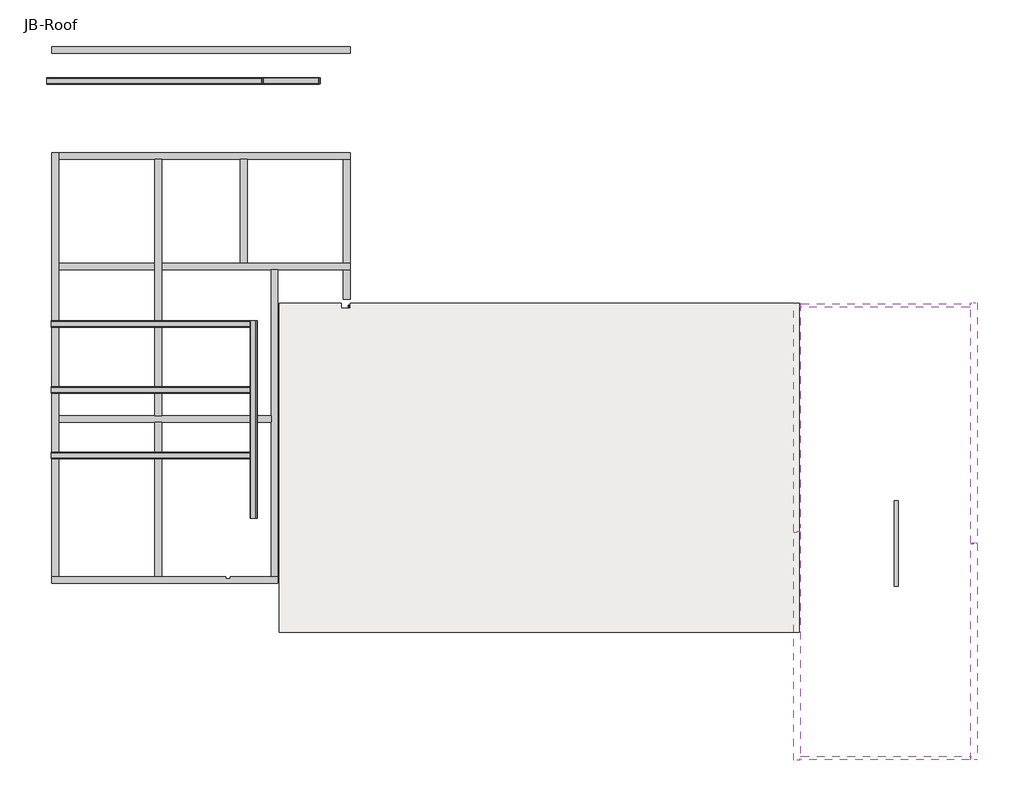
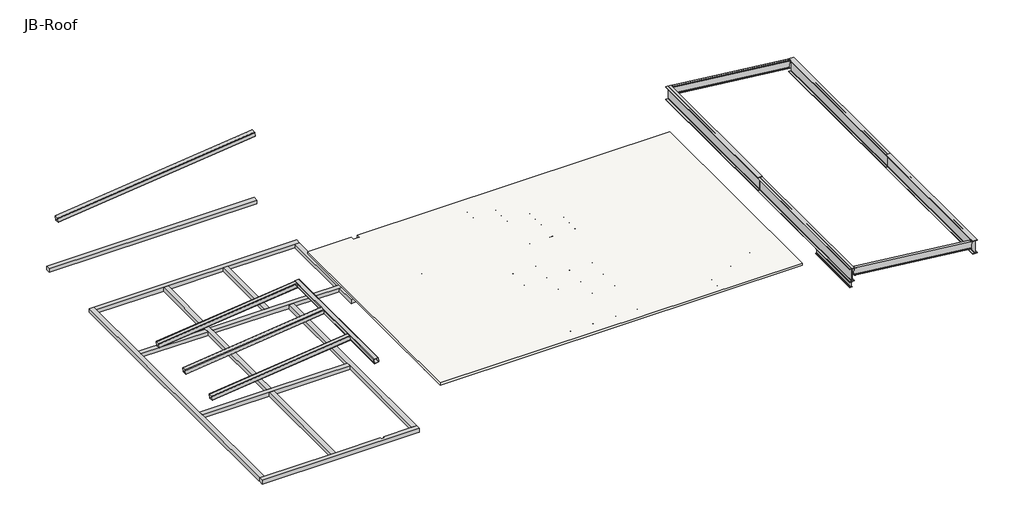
# One storey: 46 beams, 1 slab.
"""IFC4 building model written with IfcOpenShell, lengths in millimetres."""

from ifc_helpers import new_model, si_unit, frame, origin, place, context, project, spatial, polyline, outline, extrude, faceted_brep, transform, mapped, element, save
from components import hss_hollow_structural_section_hss12x12x1_2_c205e00b, hss_hollow_structural_section_hss12x12x1_2_65790d26, hss_hollow_structural_section_hss12x12x1_2_75c03b45, hss_hollow_structural_section_hss12x12x1_2_15489e63, hss_hollow_structural_section_hss12x12x1_2_070f9e11, k_series_bar_joist_rod_web_12k1_a6bee375, k_series_bar_joist_rod_web_12k1_562b93e1, k_series_bar_joist_rod_web_12k1_8968bb53, k_series_bar_joist_rod_web_22k4_82dcadde, k_series_bar_joist_rod_web_24k4_98bbd377, k_series_bar_joist_rod_web_24k4_0bbdf4ea, round_bar_rb1_903308a8, w_wide_flange_w14x30_17857959, w_wide_flange_w21x44_6d4e9764, w_wide_flange_w21x44_a0252540, w_wide_flange_w36x135_5b543eee, w_wide_flange_w36x135_edb61ff3, w_wide_flange_w36x135_1d218eeb, w_wide_flange_w36x135_915bd06f

model = new_model("IFC4")

# Units and contexts
model_context = context("Model", 3, world=origin())
ifc_project = project(units=[si_unit("LENGTHUNIT", "METRE", prefix="MILLI")], contexts=[model_context])

# Site, building, storey
site = spatial("IfcSite", under=ifc_project)
building = spatial("IfcBuilding", under=site)
storey = spatial("IfcBuildingStorey", under=building, Name="JB-Roof", Elevation=38468.3)

# Beams
placement = place(None, origin())
element("IfcBeam", 1, ObjectType="Concrete-Rectangular Beam : 12 x 18", at=placement, inside=storey, context=model_context, shape_type="Brep", body=[
    faceted_brep([(-20966.7454607, -5025.0304995, 33782.0), (-20560.3454607, -5025.0304995, 33782.0), (-16242.3454607, -5025.0304995, 33782.0), (-15835.9454607, -5025.0304995, 33782.0), (-10936.1763201, -5025.0304995, 33782.0), (-10529.7763201, -5025.0304995, 33782.0), (-10507.5513201, -5025.0304995, 33782.0), (-10507.5513201, -5025.0304995, 34036.0), (-20966.7454607, -5025.0304995, 34036.0), (-20966.7454607, -4720.2304995, 33782.0), (-20661.9454607, -4720.2304995, 33782.0), (-16191.5454607, -4720.2304995, 33782.0), (-15886.7454607, -4720.2304995, 33782.0), (-12913.3579607, -4720.2304995, 33782.0), (-12913.3579607, -4821.8304995, 33782.0), (-12710.1579607, -4821.8304995, 33782.0), (-12710.1579607, -4720.2304995, 33782.0), (-10812.3513201, -4720.2304995, 33782.0), (-10507.5513201, -4720.2304995, 33782.0), (-20966.7454607, -4720.2304995, 34036.0), (-20661.9454607, -4720.2304995, 34036.0), (-16191.5454607, -4720.2304995, 34036.0), (-15886.7454607, -4720.2304995, 34036.0), (-12913.3579607, -4720.2304995, 34036.0), (-10507.5513201, -4720.2304995, 34036.0), (-10812.3513201, -4720.2304995, 34036.0), (-12710.1579607, -4720.2304995, 34036.0), (-12710.1579607, -4821.8304995, 34036.0), (-12913.3579607, -4821.8304995, 34036.0)], [[[0, 1, 2, 3, 4, 5, 6, 7, 8]], [[0, 9, 10, 11, 12, 13, 14, 15, 16, 17, 18, 6, 5, 4, 3, 2, 1]], [[9, 19, 20, 21, 22, 23, 13, 12, 11, 10]], [[9, 0, 8, 19]], [[6, 18, 24, 7]], [[8, 7, 24, 25, 26, 27, 28, 23, 22, 21, 20, 19]], [[28, 14, 13, 23]], [[15, 27, 26, 16]], [[14, 28, 27, 15]], [[24, 18, 17, 16, 26, 25]]]),
])
element("IfcBeam", 2, ObjectType="Concrete-Rectangular Beam : 12 x 18", at=placement, inside=storey, context=model_context, shape_type="Brep", body=[
    faceted_brep([(-20661.9454607, 2429.8695005, 34036.0), (-20661.9454607, 2429.8695005, 33782.0), (-16191.5454607, 2429.8695005, 33782.0), (-15886.7454607, 2429.8695005, 33782.0), (-10812.3513201, 2429.8695005, 33782.0), (-10812.3513201, 2429.8695005, 34036.0), (-15886.7454607, 2429.8695005, 34036.0), (-16191.5454607, 2429.8695005, 34036.0), (-20661.9454607, 2734.6695005, 33782.0), (-16191.5454607, 2734.6695005, 33782.0), (-15886.7454607, 2734.6695005, 33782.0), (-10812.3513201, 2734.6695005, 33782.0), (-20661.9454607, 2734.6695005, 34036.0), (-16191.5454607, 2734.6695005, 34036.0), (-15886.7454607, 2734.6695005, 34036.0), (-10812.3513201, 2734.6695005, 34036.0)], [[[0, 1, 2, 3, 4, 5, 6, 7]], [[1, 8, 9, 10, 11, 4, 3, 2]], [[8, 12, 13, 14, 15, 11, 10, 9]], [[12, 0, 7, 6, 5, 15, 14, 13]], [[1, 0, 12, 8]], [[5, 4, 11, 15]]]),
])
element("IfcBeam", 3, ObjectType="Concrete-Rectangular Beam : 12 x 18", at=placement, inside=storey, context=model_context, shape_type="Brep", body=[
    faceted_brep([(-20661.9454607, -4720.2304995, 33782.0), (-20661.9454607, 2429.8695005, 33782.0), (-20661.9454607, 2734.6695005, 33782.0), (-20661.9454607, 9491.0695005, 33782.0), (-20661.9454607, 9795.8695005, 33782.0), (-20661.9454607, 14621.8695005, 33782.0), (-20661.9454607, 14926.6695005, 33782.0), (-20661.9454607, 14926.6695005, 34036.0), (-20661.9454607, 14621.8695005, 34036.0), (-20661.9454607, 9795.8695005, 34036.0), (-20661.9454607, 9491.0695005, 34036.0), (-20661.9454607, 2734.6695005, 34036.0), (-20661.9454607, 2429.8695005, 34036.0), (-20661.9454607, -4720.2304995, 34036.0), (-20966.7454607, -4720.2304995, 33782.0), (-20966.7454607, -4618.6304995, 33782.0), (-20966.7454607, 2379.0695005, 33782.0), (-20966.7454607, 2785.4695005, 33782.0), (-20966.7454607, 9491.0695005, 33782.0), (-20966.7454607, 9897.4695005, 33782.0), (-20966.7454607, 14520.2695005, 33782.0), (-20966.7454607, 14926.6695005, 33782.0), (-20966.7454607, -4720.2304995, 34036.0), (-20966.7454607, 14926.6695005, 34036.0)], [[[0, 1, 2, 3, 4, 5, 6, 7, 8, 9, 10, 11, 12, 13]], [[0, 14, 15, 16, 17, 18, 19, 20, 21, 6, 5, 4, 3, 2, 1]], [[21, 20, 19, 18, 17, 16, 15, 14, 22, 23]], [[14, 0, 13, 22]], [[13, 12, 11, 10, 9, 8, 7, 23, 22]], [[6, 21, 23, 7]]]),
])
element("IfcBeam", 4, ObjectType="Concrete-Rectangular Beam : 12 x 18", at=placement, inside=storey, context=model_context, shape_type="Brep", body=[
    faceted_brep([(-15886.7454607, 2734.6695005, 34036.0), (-15886.7454607, 2734.6695005, 33782.0), (-15886.7454607, 9491.0695005, 33782.0), (-15886.7454607, 9795.8695005, 33782.0), (-15886.7454607, 14621.8695005, 33782.0), (-15886.7454607, 14621.8695005, 34036.0), (-15886.7454607, 9795.8695005, 34036.0), (-15886.7454607, 9491.0695005, 34036.0), (-15886.7454607, 4866.6820005, 34036.0), (-15886.7454607, 4157.0695006, 34036.0), (-16191.5454607, 2734.6695005, 34036.0), (-16191.5454607, 2734.6695005, 33782.0), (-16191.5454607, 9491.0695005, 34036.0), (-16191.5454607, 9795.8695005, 34036.0), (-16191.5454607, 14621.8695005, 34036.0), (-16191.5454607, 14621.8695005, 33782.0), (-16191.5454607, 9795.8695005, 33782.0), (-16191.5454607, 9491.0695005, 33782.0)], [[[0, 1, 2, 3, 4, 5, 6, 7, 8, 9]], [[1, 0, 10, 11]], [[11, 10, 12, 13, 14, 15, 16, 17]], [[5, 4, 15, 14]], [[1, 11, 17, 16, 15, 4, 3, 2]], [[0, 9, 8, 7, 6, 5, 14, 13, 12, 10]]]),
    faceted_brep([(-15886.7454607, -4720.2304995, 33782.0), (-16191.5454607, -4720.2304995, 33782.0), (-16191.5454607, 2429.8695005, 33782.0), (-15886.7454607, 2429.8695005, 33782.0), (-16191.5454607, 2429.8695005, 34036.0), (-16191.5454607, -4720.2304995, 34036.0), (-15886.7454607, -4720.2304995, 34036.0), (-15886.7454607, 2429.8695005, 34036.0)], [[[0, 1, 2, 3]], [[4, 2, 1, 5]], [[1, 0, 6, 5]], [[6, 7, 4, 5]], [[7, 3, 2, 4]], [[3, 7, 6, 0]]]),
])
element("IfcBeam", 5, ObjectType="Concrete-Rectangular Beam : 12 x 18", at=placement, inside=storey, context=model_context, shape_type="Brep", body=[
    faceted_brep([(-10507.5513201, 8132.1695005, 34036.0), (-10507.5513201, -4720.2304995, 34036.0), (-10507.5513201, -4720.2304995, 33782.0), (-10507.5513201, 9491.0695005, 33782.0), (-10507.5513201, 9491.0695005, 34036.0), (-10812.3513201, -4720.2304995, 33782.0), (-10812.3513201, 2429.8695005, 33782.0), (-10812.3513201, 2734.6695005, 33782.0), (-10812.3513201, 9491.0695005, 33782.0), (-10812.3513201, -4720.2304995, 34036.0), (-10812.3513201, 2429.8695005, 34036.0), (-10812.3513201, 2734.6695005, 34036.0), (-10812.3513201, 9491.0695005, 34036.0)], [[[0, 1, 2, 3, 4]], [[2, 5, 6, 7, 8, 3]], [[5, 9, 10, 11, 12, 8, 7, 6]], [[5, 2, 1, 9]], [[1, 0, 4, 12, 11, 10, 9]], [[4, 3, 8, 12]]]),
])
element("IfcBeam", 6, ObjectType="Concrete-Rectangular Beam : 12 x 18", at=placement, inside=storey, context=model_context, shape_type="Brep", body=[
    faceted_brep([(-20661.9454607, 9491.0695005, 34036.0), (-20661.9454607, 9491.0695005, 33782.0), (-20560.3454607, 9491.0695005, 33782.0), (-16242.3454607, 9491.0695005, 33782.0), (-16191.5454607, 9491.0695005, 33782.0), (-16191.5454607, 9491.0695005, 34036.0), (-20661.9454607, 9795.8695005, 33782.0), (-16191.5454607, 9795.8695005, 33782.0), (-20661.9454607, 9795.8695005, 34036.0), (-16191.5454607, 9795.8695005, 34036.0)], [[[0, 1, 2, 3, 4, 5]], [[1, 6, 7, 4, 3, 2]], [[6, 8, 9, 7]], [[6, 1, 0, 8]], [[5, 4, 7, 9]], [[8, 0, 5, 9]]]),
    faceted_brep([(-7149.1454607, 9491.0695005, 33782.0), (-7149.1454607, 9491.0695005, 34036.0), (-7453.9454607, 9491.0695005, 34036.0), (-10507.5513201, 9491.0695005, 34036.0), (-10812.3513201, 9491.0695005, 34036.0), (-15886.7454607, 9491.0695005, 34036.0), (-15886.7454607, 9491.0695005, 33782.0), (-15835.9454607, 9491.0695005, 33782.0), (-12279.9454607, 9491.0695005, 33782.0), (-11873.5454607, 9491.0695005, 33782.0), (-10812.3513201, 9491.0695005, 33782.0), (-10507.5513201, 9491.0695005, 33782.0), (-7555.5454607, 9491.0695005, 33782.0), (-7453.9454607, 9491.0695005, 33782.0), (-7149.1454607, 9795.8695005, 34036.0), (-7149.1454607, 9795.8695005, 33782.0), (-7453.9454607, 9795.8695005, 33782.0), (-11924.3454607, 9795.8695005, 33782.0), (-12229.1454607, 9795.8695005, 33782.0), (-15886.7454607, 9795.8695005, 33782.0), (-15886.7454607, 9795.8695005, 34036.0), (-12229.1454607, 9795.8695005, 34036.0), (-11924.3454607, 9795.8695005, 34036.0), (-7453.9454607, 9795.8695005, 34036.0)], [[[0, 1, 2, 3, 4, 5, 6, 7, 8, 9, 10, 11, 12, 13]], [[14, 15, 16, 17, 18, 19, 20, 21, 22, 23]], [[15, 0, 13, 12, 11, 10, 9, 8, 7, 6, 19, 18, 17, 16]], [[0, 15, 14, 1]], [[1, 14, 23, 22, 21, 20, 5, 4, 3, 2]], [[6, 5, 20, 19]]]),
])
element("IfcBeam", 7, ObjectType="Concrete-Rectangular Beam : 12 x 18", at=placement, inside=storey, context=model_context, shape_type="Brep", body=[
    faceted_brep([(-20661.9454607, 14621.8695005, 33782.0), (-16191.5454607, 14621.8695005, 33782.0), (-15886.7454607, 14621.8695005, 33782.0), (-12229.1454607, 14621.8695005, 33782.0), (-11924.3454607, 14621.8695005, 33782.0), (-7453.9454607, 14621.8695005, 33782.0), (-7149.1454607, 14621.8695005, 33782.0), (-7149.1454607, 14621.8695005, 34036.0), (-7453.9454607, 14621.8695005, 34036.0), (-11924.3454607, 14621.8695005, 34036.0), (-12229.1454607, 14621.8695005, 34036.0), (-15886.7454607, 14621.8695005, 34036.0), (-16191.5454607, 14621.8695005, 34036.0), (-20661.9454607, 14621.8695005, 34036.0), (-20661.9454607, 14926.6695005, 33782.0), (-20560.3454607, 14926.6695005, 33782.0), (-16242.3454607, 14926.6695005, 33782.0), (-15835.9454607, 14926.6695005, 33782.0), (-12279.9454607, 14926.6695005, 33782.0), (-11873.5454607, 14926.6695005, 33782.0), (-7555.5454607, 14926.6695005, 33782.0), (-7149.1454607, 14926.6695005, 33782.0), (-20661.9454607, 14926.6695005, 34036.0), (-7149.1454607, 14926.6695005, 34036.0)], [[[0, 1, 2, 3, 4, 5, 6, 7, 8, 9, 10, 11, 12, 13]], [[0, 14, 15, 16, 17, 18, 19, 20, 21, 6, 5, 4, 3, 2, 1]], [[21, 20, 19, 18, 17, 16, 15, 14, 22, 23]], [[14, 0, 13, 22]], [[13, 12, 11, 10, 9, 8, 7, 23, 22]], [[6, 21, 23, 7]]]),
])
element("IfcBeam", 8, ObjectType="Concrete-Rectangular Beam : 12 x 18", at=placement, inside=storey, context=model_context, shape_type="SweptSolid", body=[
    extrude(outline(polyline([(-11924.3454607, 9795.8695005), (-12229.1454607, 9795.8695005), (-12229.1454607, 14621.8695005), (-11924.3454607, 14621.8695005), (-11924.3454607, 9795.8695005)])), frame((0.0, 0.0, 33782.0), z_axis=(0.0, 0.0, 1.0), x_axis=(1.0, 0.0, 0.0)), (0.0, 0.0, 1.0), 254.0),
])
element("IfcBeam", 9, ObjectType="Concrete-Rectangular Beam : 12 x 18", at=placement, inside=storey, context=model_context, shape_type="Brep", body=[
    faceted_brep([(-7453.9454607, 14621.8695005, 33782.0), (-7453.9454607, 9795.8695005, 33782.0), (-7453.9454607, 9795.8695005, 34036.0), (-7453.9454607, 14621.8695005, 34036.0), (-7149.1454607, 9795.8695005, 33782.0), (-7149.1454607, 14621.8695005, 33782.0), (-7149.1454607, 14520.2695005, 33782.0), (-7149.1454607, 9897.4695005, 33782.0), (-7149.1454607, 14621.8695005, 34036.0), (-7149.1454607, 9795.8695005, 34036.0)], [[[0, 1, 2, 3]], [[4, 1, 0, 5, 6, 7]], [[4, 7, 6, 5, 8, 9]], [[1, 4, 9, 2]], [[5, 0, 3, 8]], [[3, 2, 9, 8]]]),
])
element("IfcBeam", 10, ObjectType="Concrete-Rectangular Beam : 12 x 18", at=placement, inside=storey, context=model_context, shape_type="SweptSolid", body=[
    extrude(outline(polyline([(-7149.1454607, 19847.9195005), (-7149.1454607, 19543.1195005), (-20966.7454607, 19543.1195005), (-20966.7454607, 19847.9195005), (-7149.1454607, 19847.9195005)])), frame((0.0, 0.0, 33782.0), z_axis=(0.0, 0.0, 1.0), x_axis=(1.0, 0.0, 0.0)), (0.0, 0.0, 1.0), 254.0),
])
element("IfcBeam", 11, ObjectType="Concrete-Rectangular Beam : 12 x 18", at=placement, inside=storey, context=model_context, shape_type="SweptSolid", body=[
    extrude(outline(polyline([(-7453.9454607, 8132.1695005), (-7453.9454607, 9491.0695005), (-7149.1454607, 9491.0695005), (-7149.1454607, 8132.1695005), (-7453.9454607, 8132.1695005)])), frame((0.0, 0.0, 33782.0), z_axis=(0.0, 0.0, 1.0), x_axis=(1.0, 0.0, 0.0)), (0.0, 0.0, 1.0), 254.0),
])
hss_hollow_structural_section_hss12x12x1_2_shape = hss_hollow_structural_section_hss12x12x1_2_c205e00b(model_context)
element("IfcBeam", 12, ObjectType="HSS-Hollow Structural Section : HSS12X12X1/2", at=placement, inside=storey, context=model_context, shape_type="MappedRepresentation", body=[
    mapped(hss_hollow_structural_section_hss12x12x1_2_shape, transform((-11619.5622499, 2480.6695005, 37366.8520628), x_axis=(0.0, -1.0, 0.0), y_axis=(0.9938030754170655, 0.0, 0.11115505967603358), z_axis=(-0.11115505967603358, 0.0, 0.9938030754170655))),
])
hss_hollow_structural_section_hss12x12x1_2_2_shape = hss_hollow_structural_section_hss12x12x1_2_65790d26(model_context)
element("IfcBeam", 13, ObjectType="HSS-Hollow Structural Section : HSS12X12X1/2", at=placement, inside=storey, context=model_context, shape_type="MappedRepresentation", body=[
    mapped(hss_hollow_structural_section_hss12x12x1_2_2_shape, transform((-14730.32539, 18252.7995005, 39127.1188846), x_axis=(-0.9938030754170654, 0.0, -0.11115505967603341), y_axis=(0.0, -1.0, 0.0), z_axis=(-0.11115505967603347, 0.0, 0.9938030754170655))),
])
hss_hollow_structural_section_hss12x12x1_2_3_shape = hss_hollow_structural_section_hss12x12x1_2_75c03b45(model_context)
element("IfcBeam", 14, ObjectType="HSS-Hollow Structural Section : HSS12X12X1/2", at=placement, inside=storey, context=model_context, shape_type="MappedRepresentation", body=[
    mapped(hss_hollow_structural_section_hss12x12x1_2_3_shape, transform((-16306.6763225, 880.4695005, 36842.6069107), x_axis=(0.9938030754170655, 0.0, 0.11115505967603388), y_axis=(0.0, 1.0000000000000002, 0.0), z_axis=(-0.11115505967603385, 0.0, 0.9938030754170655))),
])
hss_hollow_structural_section_hss12x12x1_2_4_shape = hss_hollow_structural_section_hss12x12x1_2_15489e63(model_context)
element("IfcBeam", 15, ObjectType="HSS-Hollow Structural Section : HSS12X12X1/2", at=placement, inside=storey, context=model_context, shape_type="MappedRepresentation", body=[
    mapped(hss_hollow_structural_section_hss12x12x1_2_4_shape, transform((-16306.9056735, 6976.4695005, 36842.5812582), x_axis=(0.9938030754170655, 0.0, 0.1111550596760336), y_axis=(0.0, 1.0000000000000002, 0.0), z_axis=(-0.1111550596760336, 0.0, 0.9938030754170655))),
])
hss_hollow_structural_section_hss12x12x1_2_5_shape = hss_hollow_structural_section_hss12x12x1_2_070f9e11(model_context)
element("IfcBeam", 16, ObjectType="HSS-Hollow Structural Section : HSS12X12X1/2", at=placement, inside=storey, context=model_context, shape_type="MappedRepresentation", body=[
    mapped(hss_hollow_structural_section_hss12x12x1_2_5_shape, transform((-16306.6771812, 3928.4695005, 36842.6068146), x_axis=(0.9938030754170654, 0.0, 0.11115505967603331), y_axis=(0.0, 1.0, 0.0), z_axis=(-0.11115505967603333, 0.0, 0.9938030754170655))),
])
k_series_bar_joist_rod_web_12k1_shape = k_series_bar_joist_rod_web_12k1_a6bee375(model_context)
element("IfcBeam", 17, ObjectType="K-Series Bar Joist-Rod Web : 12K1", at=placement, inside=storey, context=model_context, shape_type="MappedRepresentation", body=[
    mapped(k_series_bar_joist_rod_web_12k1_shape, transform((4185.6045393, 4984.1570005, 38315.9), x_axis=(0.0, -1.0, 0.0), y_axis=(1.0, 0.0, 0.0), z_axis=(0.0, 0.0, 1.0))),
])
element("IfcBeam", 18, ObjectType="K-Series Bar Joist-Rod Web : 12K1", at=placement, inside=storey, context=model_context, shape_type="MappedRepresentation", body=[
    mapped(k_series_bar_joist_rod_web_12k1_shape, transform((2661.6045393, 4984.1570005, 38315.9), x_axis=(0.0, -1.0, 0.0), y_axis=(1.0, 0.0, 0.0), z_axis=(0.0, 0.0, 1.0))),
])
element("IfcBeam", 19, ObjectType="K-Series Bar Joist-Rod Web : 12K1", at=placement, inside=storey, context=model_context, shape_type="MappedRepresentation", body=[
    mapped(k_series_bar_joist_rod_web_12k1_shape, transform((1137.6045393, 4984.1570005, 38315.9), x_axis=(0.0, -1.0, 0.0), y_axis=(1.0, 0.0, 0.0), z_axis=(0.0, 0.0, 1.0))),
])
element("IfcBeam", 20, ObjectType="K-Series Bar Joist-Rod Web : 12K1", at=placement, inside=storey, context=model_context, shape_type="MappedRepresentation", body=[
    mapped(k_series_bar_joist_rod_web_12k1_shape, transform((-386.3954607, 4984.1570005, 38315.9), x_axis=(0.0, -1.0, 0.0), y_axis=(1.0, 0.0, 0.0), z_axis=(0.0, 0.0, 1.0))),
])
k_series_bar_joist_rod_web_12k1_2_shape = k_series_bar_joist_rod_web_12k1_562b93e1(model_context)
element("IfcBeam", 21, ObjectType="K-Series Bar Joist-Rod Web : 12K1", at=placement, inside=storey, context=model_context, shape_type="MappedRepresentation", body=[
    mapped(k_series_bar_joist_rod_web_12k1_2_shape, transform((11679.7951643, -4439.2429995, 38315.9), x_axis=(0.0, -1.0, 0.0), y_axis=(1.0, 0.0, 0.0), z_axis=(0.0, 0.0, 1.0))),
])
element("IfcBeam", 22, ObjectType="K-Series Bar Joist-Rod Web : 12K1", at=placement, inside=storey, context=model_context, shape_type="MappedRepresentation", body=[
    mapped(k_series_bar_joist_rod_web_12k1_2_shape, transform((10061.7357893, -4439.2429995, 38315.9), x_axis=(0.0, -1.0, 0.0), y_axis=(1.0, 0.0, 0.0), z_axis=(0.0, 0.0, 1.0))),
])
element("IfcBeam", 23, ObjectType="K-Series Bar Joist-Rod Web : 12K1", at=placement, inside=storey, context=model_context, shape_type="MappedRepresentation", body=[
    mapped(k_series_bar_joist_rod_web_12k1_2_shape, transform((8443.6764143, -4439.2429995, 38315.9), x_axis=(0.0, -1.0, 0.0), y_axis=(1.0, 0.0, 0.0), z_axis=(0.0, 0.0, 1.0))),
])
k_series_bar_joist_rod_web_12k1_3_shape = k_series_bar_joist_rod_web_12k1_8968bb53(model_context)
element("IfcBeam", 24, ObjectType="K-Series Bar Joist-Rod Web : 12K1", at=placement, inside=storey, context=model_context, shape_type="MappedRepresentation", body=[
    mapped(k_series_bar_joist_rod_web_12k1_3_shape, transform((-8753.9884159, 5212.7570005, 38315.9), x_axis=(0.010666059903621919, 0.9999431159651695, 0.0), y_axis=(-0.9999431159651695, 0.010666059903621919, 0.0), z_axis=(0.0, 0.0, 1.0))),
])
element("IfcBeam", 25, ObjectType="K-Series Bar Joist-Rod Web : 12K1", at=placement, inside=storey, context=model_context, shape_type="MappedRepresentation", body=[
    mapped(k_series_bar_joist_rod_web_12k1_3_shape, transform((-5707.8939216, 5212.7570005, 38315.9), x_axis=(0.010666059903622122, 0.9999431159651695, 0.0), y_axis=(-0.9999431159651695, 0.010666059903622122, 0.0), z_axis=(0.0, 0.0, 1.0))),
])
element("IfcBeam", 26, ObjectType="K-Series Bar Joist-Rod Web : 12K1", at=placement, inside=storey, context=model_context, shape_type="MappedRepresentation", body=[
    mapped(k_series_bar_joist_rod_web_12k1_3_shape, transform((-4184.8466745, 5212.7570005, 38315.9), x_axis=(0.010666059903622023, 0.9999431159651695, 0.0), y_axis=(-0.9999431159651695, 0.010666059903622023, 0.0), z_axis=(0.0, 0.0, 1.0))),
])
element("IfcBeam", 27, ObjectType="K-Series Bar Joist-Rod Web : 12K1", at=placement, inside=storey, context=model_context, shape_type="MappedRepresentation", body=[
    mapped(k_series_bar_joist_rod_web_12k1_3_shape, transform((-7230.9411688, 5212.7570005, 38315.9), x_axis=(0.010666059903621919, 0.9999431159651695, 0.0), y_axis=(-0.9999431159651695, 0.010666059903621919, 0.0), z_axis=(0.0, 0.0, 1.0))),
])
k_series_bar_joist_rod_web_22k4_shape = k_series_bar_joist_rod_web_22k4_82dcadde(model_context)
element("IfcBeam", 28, ObjectType="K-Series Bar Joist-Rod Web : 22K4", at=placement, inside=storey, context=model_context, shape_type="MappedRepresentation", body=[
    mapped(k_series_bar_joist_rod_web_22k4_shape, transform((-8799.8279607, -2186.2515659, 38188.9), x_axis=(0.0, -1.0, 0.0), y_axis=(1.0, 0.0, 0.0), z_axis=(0.0, 0.0, 1.0))),
])
element("IfcBeam", 29, ObjectType="K-Series Bar Joist-Rod Web : 22K4", at=placement, inside=storey, context=model_context, shape_type="MappedRepresentation", body=[
    mapped(k_series_bar_joist_rod_web_22k4_shape, transform((-7272.3354607, -2187.3664501, 38188.9), x_axis=(0.0, -1.0, 0.0), y_axis=(1.0, 0.0, 0.0), z_axis=(0.0, 0.0, 1.0))),
])
element("IfcBeam", 30, ObjectType="K-Series Bar Joist-Rod Web : 22K4", at=placement, inside=storey, context=model_context, shape_type="MappedRepresentation", body=[
    mapped(k_series_bar_joist_rod_web_22k4_shape, transform((-5744.8429607, -2188.4813342, 38188.9), x_axis=(0.0, -1.0, 0.0), y_axis=(1.0, 0.0, 0.0), z_axis=(0.0, 0.0, 1.0))),
])
element("IfcBeam", 31, ObjectType="K-Series Bar Joist-Rod Web : 22K4", at=placement, inside=storey, context=model_context, shape_type="MappedRepresentation", body=[
    mapped(k_series_bar_joist_rod_web_22k4_shape, transform((-4217.3504607, -2189.5962184, 38188.9), x_axis=(0.0, -1.0, 0.0), y_axis=(1.0, 0.0, 0.0), z_axis=(0.0, 0.0, 1.0))),
])
k_series_bar_joist_rod_web_24k4_shape = k_series_bar_joist_rod_web_24k4_98bbd377(model_context)
element("IfcBeam", 32, ObjectType="K-Series Bar Joist-Rod Web : 24K4", at=placement, inside=storey, context=model_context, shape_type="MappedRepresentation", body=[
    mapped(k_series_bar_joist_rod_web_24k4_shape, transform((-1192.8454607, -2408.8304995, 38163.5), x_axis=(0.0, 1.0, 0.0), y_axis=(-1.0, 0.0, 0.0), z_axis=(0.0, 0.0, 1.0))),
])
element("IfcBeam", 33, ObjectType="K-Series Bar Joist-Rod Web : 24K4", at=placement, inside=storey, context=model_context, shape_type="MappedRepresentation", body=[
    mapped(k_series_bar_joist_rod_web_24k4_shape, transform((304.1670393, -2408.8304995, 38163.5), x_axis=(0.0, 1.0, 0.0), y_axis=(-1.0, 0.0, 0.0), z_axis=(0.0, 0.0, 1.0))),
])
element("IfcBeam", 34, ObjectType="K-Series Bar Joist-Rod Web : 24K4", at=placement, inside=storey, context=model_context, shape_type="MappedRepresentation", body=[
    mapped(k_series_bar_joist_rod_web_24k4_shape, transform((1801.1795393, -2408.8304995, 38163.5), x_axis=(0.0, 1.0, 0.0), y_axis=(-1.0, 0.0, 0.0), z_axis=(0.0, 0.0, 1.0))),
])
element("IfcBeam", 35, ObjectType="K-Series Bar Joist-Rod Web : 24K4", at=placement, inside=storey, context=model_context, shape_type="MappedRepresentation", body=[
    mapped(k_series_bar_joist_rod_web_24k4_shape, transform((3298.1920393, -2408.8304995, 38163.5), x_axis=(0.0, 1.0, 0.0), y_axis=(-1.0, 0.0, 0.0), z_axis=(0.0, 0.0, 1.0))),
])
k_series_bar_joist_rod_web_24k4_2_shape = k_series_bar_joist_rod_web_24k4_0bbdf4ea(model_context)
element("IfcBeam", 36, ObjectType="K-Series Bar Joist-Rod Web : 24K4", at=placement, inside=storey, context=model_context, shape_type="MappedRepresentation", body=[
    mapped(k_series_bar_joist_rod_web_24k4_2_shape, transform((8511.1451643, 2953.7445005, 38163.5), x_axis=(0.0, 1.0, 0.0), y_axis=(-1.0, 0.0, 0.0), z_axis=(0.0, 0.0, 1.0))),
])
element("IfcBeam", 37, ObjectType="K-Series Bar Joist-Rod Web : 24K4", at=placement, inside=storey, context=model_context, shape_type="MappedRepresentation", body=[
    mapped(k_series_bar_joist_rod_web_24k4_2_shape, transform((10196.6732893, 2953.7445005, 38163.5), x_axis=(0.0, 1.0, 0.0), y_axis=(-1.0, 0.0, 0.0), z_axis=(0.0, 0.0, 1.0))),
])
element("IfcBeam", 38, ObjectType="K-Series Bar Joist-Rod Web : 24K4", at=placement, inside=storey, context=model_context, shape_type="MappedRepresentation", body=[
    mapped(k_series_bar_joist_rod_web_24k4_2_shape, transform((11882.2014143, 2953.7445005, 38163.5), x_axis=(0.0, 1.0, 0.0), y_axis=(-1.0, 0.0, 0.0), z_axis=(0.0, 0.0, 1.0))),
])
round_bar_rb1_shape = round_bar_rb1_903308a8(model_context)
element("IfcBeam", 39, ObjectType="Round Bar : RB1", at=placement, inside=storey, context=model_context, shape_type="MappedRepresentation", body=[
    mapped(round_bar_rb1_shape, transform((-2840.9344946, 4361.8564965, 30467.3), x_axis=(1.0, 0.0, 0.0), y_axis=(0.0, 1.0, 0.0), z_axis=(0.0, 0.0, 1.0))),
])
w_wide_flange_w14x30_shape = w_wide_flange_w14x30_17857959(model_context)
element("IfcBeam", 40, ObjectType="W-Wide Flange : W14X30", at=placement, inside=storey, context=model_context, shape_type="MappedRepresentation", body=[
    mapped(w_wide_flange_w14x30_shape, transform((18172.4717268, -3175.5929995, 34203.1339844), x_axis=(0.0, -1.0, 0.0), y_axis=(1.0, 0.0, 0.0), z_axis=(0.0, 0.0, 1.0))),
])
w_wide_flange_w21x44_shape = w_wide_flange_w21x44_6d4e9764(model_context)
element("IfcBeam", 41, ObjectType="W-Wide Flange : W21X44", at=placement, inside=storey, context=model_context, shape_type="MappedRepresentation", body=[
    mapped(w_wide_flange_w21x44_shape, transform((17645.9365475, -13140.3801089, 41130.1521404), x_axis=(0.993803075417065, 0.0, -0.11115505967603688), y_axis=(0.0, 1.0, 0.0), z_axis=(0.11115505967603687, 0.0, 0.9938030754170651))),
])
w_wide_flange_w21x44_2_shape = w_wide_flange_w21x44_a0252540(model_context)
element("IfcBeam", 42, ObjectType="W-Wide Flange : W21X44", at=placement, inside=storey, context=model_context, shape_type="MappedRepresentation", body=[
    mapped(w_wide_flange_w21x44_2_shape, transform((17638.6854017, 7843.2445005, 41130.9631679), x_axis=(0.9938030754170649, 0.0, -0.11115505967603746), y_axis=(0.0, 1.0, 0.0), z_axis=(0.1111550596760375, 0.0, 0.993803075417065))),
])
w_wide_flange_w36x135_shape = w_wide_flange_w36x135_5b543eee(model_context)
element("IfcBeam", 43, ObjectType="W-Wide Flange : W36X135", at=placement, inside=storey, context=model_context, shape_type="MappedRepresentation", body=[
    mapped(w_wide_flange_w36x135_shape, transform((13565.7883392, 2597.3376982, 41398.9185367), x_axis=(-1.2852700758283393e-05, -0.9999999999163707, 1.4375511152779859e-06), y_axis=(0.9999999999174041, -1.2852700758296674e-05, 0.0), z_axis=(1.8476414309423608e-11, 1.4375511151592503e-06, 0.9999999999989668))),
])
w_wide_flange_w36x135_2_shape = w_wide_flange_w36x135_edb61ff3(model_context)
element("IfcBeam", 44, ObjectType="W-Wide Flange : W36X135", at=placement, inside=storey, context=model_context, shape_type="MappedRepresentation", body=[
    mapped(w_wide_flange_w36x135_2_shape, transform((13565.6534911, -7894.4746065, 41398.9336192), x_axis=(-1.2852700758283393e-05, -0.9999999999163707, 1.4375511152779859e-06), y_axis=(0.999999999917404, -1.2852700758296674e-05, 0.0), z_axis=(1.8476414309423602e-11, 1.4375511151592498e-06, 0.9999999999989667))),
])
w_wide_flange_w36x135_3_shape = w_wide_flange_w36x135_1d218eeb(model_context)
element("IfcBeam", 45, ObjectType="W-Wide Flange : W36X135", at=placement, inside=storey, context=model_context, shape_type="MappedRepresentation", body=[
    mapped(w_wide_flange_w36x135_3_shape, transform((21769.9581474, 2329.8487323, 40481.2971213), x_axis=(0.0, -1.0, 0.0), y_axis=(1.0, 0.0, 0.0), z_axis=(0.0, 0.0, 1.0))),
])
w_wide_flange_w36x135_4_shape = w_wide_flange_w36x135_915bd06f(model_context)
element("IfcBeam", 46, ObjectType="W-Wide Flange : W36X135", at=placement, inside=storey, context=model_context, shape_type="MappedRepresentation", body=[
    mapped(w_wide_flange_w36x135_4_shape, transform((21777.34403, -8161.8885485, 40480.4710176), x_axis=(0.0014836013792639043, -0.9999988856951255, -0.00016593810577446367), y_axis=(0.9999988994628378, 0.0014836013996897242, 0.0), z_axis=(2.461860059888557e-07, -0.00016593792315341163, 0.9999999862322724))),
])

# Slab
element("IfcSlab", 47, ObjectType="ROOF - 2\" Metal Deck w 3\" Rigid Insulation", at=placement, inside=storey, context=model_context, shape_type="SweptSolid", body=[
    extrude(outline(polyline([(13669.3295393, 7944.8445005), (13669.3295393, -7314.2054995), (-10428.9204607, -7314.2054995), (-10428.9204607, 7944.8445005), (-7555.5454607, 7944.8445005), (-7555.5454607, 7725.7695005), (-7149.1454607, 7725.7695005), (-7149.1454607, 7944.8445005), (13669.3295393, 7944.8445005)])), frame((0.0, 0.0, 38442.9), z_axis=(0.0, 0.0, 1.0), x_axis=(1.0, 0.0, 0.0)), (0.0, 0.0, 1.0), 152.4),
])

save(model, "model.ifc")
